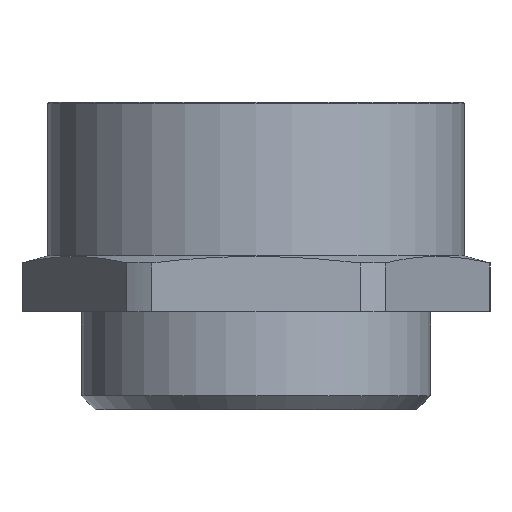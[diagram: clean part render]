
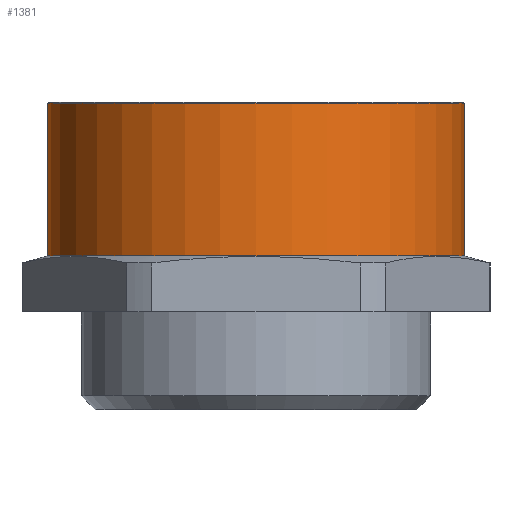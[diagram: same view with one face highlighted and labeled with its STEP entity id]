
A CAD part, left-side view. The second image highlights one B-rep face of the part: STEP entity #1381.
In plain terms, the highlighted cylindrical face has radius 14.9 mm (diameter 29.8 mm), a partial arc.
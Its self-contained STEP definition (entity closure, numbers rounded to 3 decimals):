
#5 = DIRECTION ( 'NONE',  ( 0., 1., 0. ) ) ;
#6 = DIRECTION ( 'NONE',  ( 0., 0., -1. ) ) ;
#9 = CARTESIAN_POINT ( 'NONE',  ( 0., 0., -0.05 ) ) ;
#10 = AXIS2_PLACEMENT_3D ( 'NONE', #9, #6, #5 ) ;
#78 = DIRECTION ( 'NONE',  ( 0., 0., 1. ) ) ;
#81 = VECTOR ( 'NONE', #78, 1000. ) ;
#82 = CARTESIAN_POINT ( 'NONE',  ( 0., -14.9, 0. ) ) ;
#83 = LINE ( 'NONE', #82, #81 ) ;
#134 = DIRECTION ( 'NONE',  ( 0., 0., 1. ) ) ;
#135 = VECTOR ( 'NONE', #134, 1000. ) ;
#136 = CARTESIAN_POINT ( 'NONE',  ( 0., 14.9, 0. ) ) ;
#137 = LINE ( 'NONE', #136, #135 ) ;
#230 = CIRCLE ( 'NONE', #10, 14.9 ) ;
#256 = CARTESIAN_POINT ( 'NONE',  ( 0., 14.9, -0.05 ) ) ;
#257 = CARTESIAN_POINT ( 'NONE',  ( 0., -14.9, -0.05 ) ) ;
#388 = CARTESIAN_POINT ( 'NONE',  ( 0., -14.9, -11. ) ) ;
#486 = DIRECTION ( 'NONE',  ( 0., -1., 0. ) ) ;
#487 = DIRECTION ( 'NONE',  ( 0., 0., 1. ) ) ;
#488 = CARTESIAN_POINT ( 'NONE',  ( 0., 0., 0. ) ) ;
#489 = AXIS2_PLACEMENT_3D ( 'NONE', #488, #487, #486 ) ;
#490 = FACE_OUTER_BOUND ( 'NONE', #1324, .T. ) ;
#496 = CYLINDRICAL_SURFACE ( 'NONE', #489, 14.9 ) ;
#889 = EDGE_CURVE ( 'NONE', #1108, #1293, #1963, .T. ) ;
#1108 = VERTEX_POINT ( 'NONE', #2024 ) ;
#1149 = EDGE_CURVE ( 'NONE', #1293, #1266, #83, .T. ) ;
#1167 = EDGE_CURVE ( 'NONE', #1108, #1268, #137, .T. ) ;
#1266 = VERTEX_POINT ( 'NONE', #257 ) ;
#1268 = VERTEX_POINT ( 'NONE', #256 ) ;
#1293 = VERTEX_POINT ( 'NONE', #388 ) ;
#1324 = EDGE_LOOP ( 'NONE', ( #1328, #1329, #1357, #1362 ) ) ;
#1328 = ORIENTED_EDGE ( 'NONE', *, *, #1167, .F. ) ;
#1329 = ORIENTED_EDGE ( 'NONE', *, *, #889, .T. ) ;
#1349 = EDGE_CURVE ( 'NONE', #1266, #1268, #230, .T. ) ;
#1357 = ORIENTED_EDGE ( 'NONE', *, *, #1149, .T. ) ;
#1362 = ORIENTED_EDGE ( 'NONE', *, *, #1349, .T. ) ;
#1381 = ADVANCED_FACE ( 'NONE', ( #490 ), #496, .T. ) ;
#1907 = AXIS2_PLACEMENT_3D ( 'NONE', #1957, #1956, #1955 ) ;
#1955 = DIRECTION ( 'NONE',  ( 0., -1., 0. ) ) ;
#1956 = DIRECTION ( 'NONE',  ( 0., 0., 1. ) ) ;
#1957 = CARTESIAN_POINT ( 'NONE',  ( 0., 0., -11. ) ) ;
#1963 = CIRCLE ( 'NONE', #1907, 14.9 ) ;
#2024 = CARTESIAN_POINT ( 'NONE',  ( 0., 14.9, -11. ) ) ;
